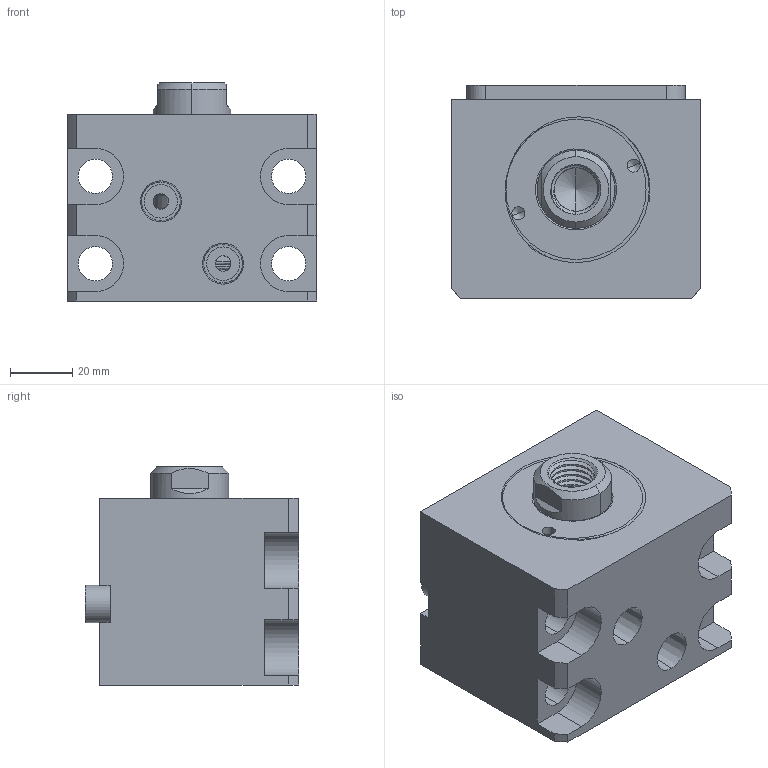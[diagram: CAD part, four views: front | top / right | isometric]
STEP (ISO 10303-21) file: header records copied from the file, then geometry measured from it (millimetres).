
FILE_DESCRIPTION (( 'STEP AP214' ), '1' );
FILE_NAME ('chtb-la40x5n_asm.STEP', '2018-05-31T01:47:14', ( 'Windows' ), ( 'Microsoft' ), 'SwSTEP 2.0', 'SolidWorks 2015', '' );
FILE_SCHEMA (( 'AUTOMOTIVE_DESIGN' ));
Length unit declared in the file: millimetre
Products named in the file (5): CHTB-LA40PJ; CHTB-SD40QG; CHTB-SD40X5NHSG; CHTB-LA40X5NBT; chtb-la40x5n_asm
Assembly tree (4 placements, depth 2):
  chtb-la40x5n_asm
    CHTB-LA40X5NBT
    CHTB-SD40X5NHSG
    CHTB-SD40QG
    CHTB-LA40PJ
Bounding box: 80 x 68.5 x 70 mm (x, y, z)
Volume: 268834.5 mm3; surface area: 66652.1 mm2
Topology: 4 solids, 4 shells, 190 faces, 552 edges, 376 vertices
Faces by surface type: cylinder 90, plane 48, bspline 36, cone 16
Entity records: 17622 total; most frequent: CARTESIAN_POINT 12762, ORIENTED_EDGE 1088, DIRECTION 827, EDGE_CURVE 544, VERTEX_POINT 376, AXIS2_PLACEMENT_3D 324, EDGE_LOOP 218, ADVANCED_FACE 190
